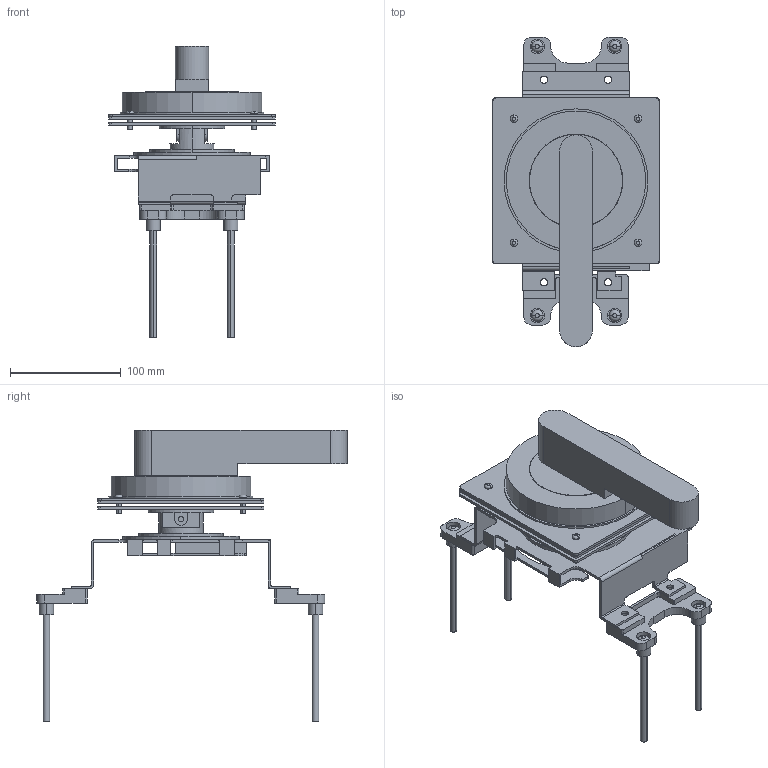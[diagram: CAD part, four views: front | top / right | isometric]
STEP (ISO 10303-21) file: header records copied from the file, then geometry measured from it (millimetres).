
FILE_DESCRIPTION( ( '' ), '1' );
FILE_NAME( 'E:/D&C電子外形図_3D/step/distribution/g-twin/breaker_accessory/handle/BW9V0JA.stp', '2012-10-19T07:54:10', ( '' ), ( '' ), ' ', ' ', ' ' );
FILE_SCHEMA( ( 'automotive_design' ) );
Length unit declared in the file: millimetre
Products named in the file (17): 1; 2; 3; 4; 5; 6; 7; 8; 9; 10; 11; 12; 13; 14; 15; 16; 17
Bounding box: 150 x 280 x 263 mm (x, y, z)
Volume: 750093.4 mm3; surface area: 252906.3 mm2
Topology: 17 solids, 17 shells, 447 faces, 1182 edges, 790 vertices
Faces by surface type: cylinder 224, plane 207, torus 16
Entity records: 28015 total; most frequent: DIRECTION 2621, STYLED_ITEM 2436, PRESENTATION_STYLE_ASSIGNMENT 2436, CARTESIAN_POINT 2436, COLOUR_RGB 2436, ORIENTED_EDGE 2364, EDGE_CURVE 1182, CURVE_STYLE 1182
